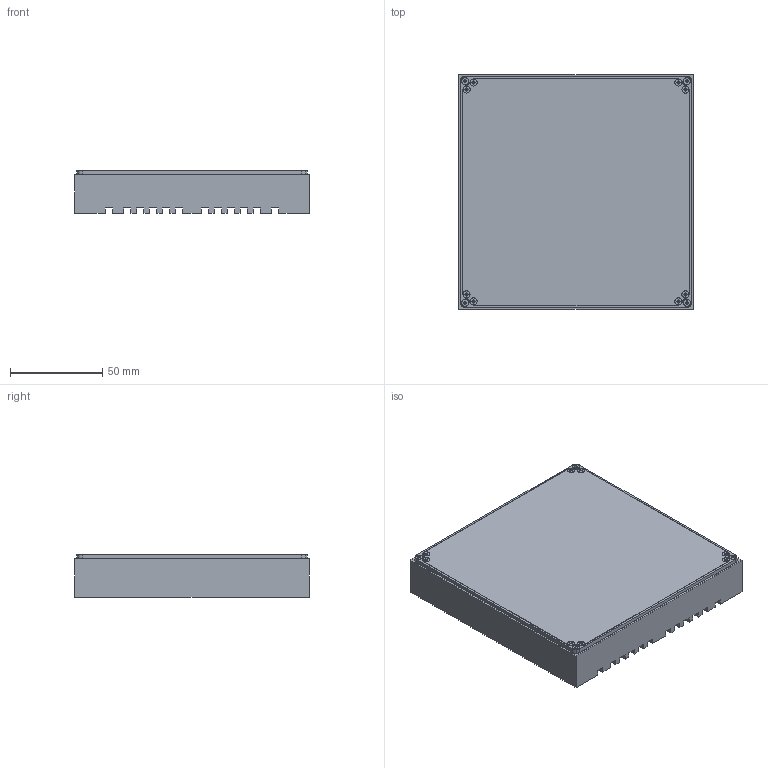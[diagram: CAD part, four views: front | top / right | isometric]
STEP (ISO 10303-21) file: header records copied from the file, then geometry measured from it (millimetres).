
FILE_DESCRIPTION(('STEP AP214'),'1');
FILE_NAME('use TL-HL-120 Kundenmodell mit Kollimator.stp','2022-08-09T12:57:20',(' '),(' '),'Spatial InterOp 3D',' ',' ');
FILE_SCHEMA(('AUTOMOTIVE_DESIGN { 1 0 10303 214 1 1 1 1 }'));
Length unit declared in the file: metre
Products named in the file (1): Volumenkörper
Bounding box: 127 x 127 x 23.23 mm (x, y, z)
Volume: 182640.3 mm3; surface area: 124805.9 mm2
Topology: 1 solids, 13 shells, 781 faces, 2104 edges, 1335 vertices
Faces by surface type: plane 333, cylinder 297, cone 126, torus 24, bspline 1
Entity records: 27359 total; most frequent: CARTESIAN_POINT 7438, DIRECTION 4274, ORIENTED_EDGE 4140, EDGE_CURVE 2070, AXIS2_PLACEMENT_3D 1535, VERTEX_POINT 1335, LINE 1204, VECTOR 1204
